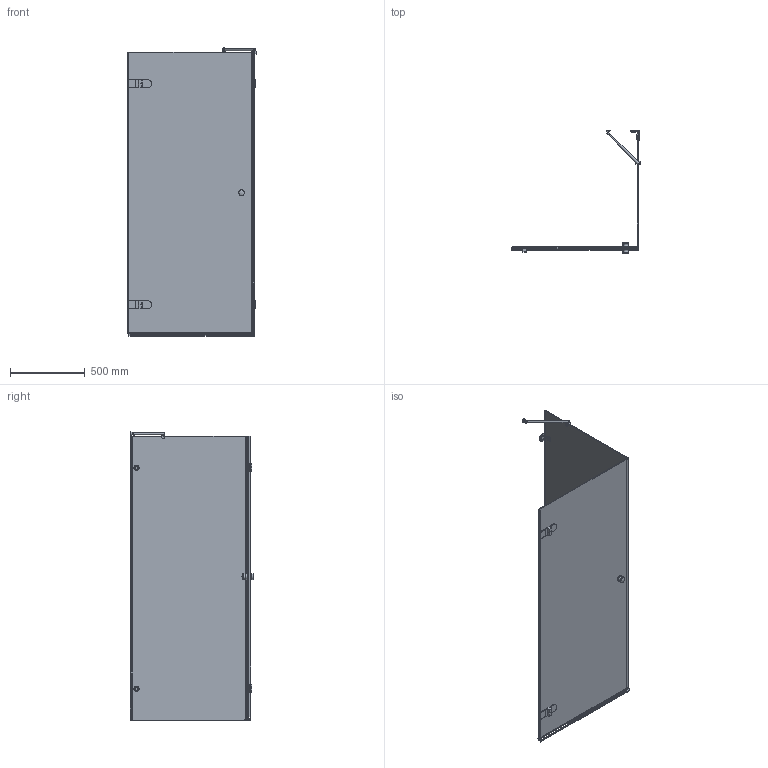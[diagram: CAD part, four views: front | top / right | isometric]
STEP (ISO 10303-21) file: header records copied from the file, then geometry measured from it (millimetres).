
FILE_DESCRIPTION(/* description */ (''),/* implementation_level */ '2;1');
FILE_NAME(/* name */ 'C:\2\LUX SQUARE GK-002A-2511\LUX SQUARE GK-002A-2511 левая модель\LUX SQUARE GK-002A-2511 ЛЕВАЯ-3D.stp',/* time_stamp */ '2020-08-13T15:52:26+03:00',/* author */ ('ChechurovS'),/* organization */ (''),/* preprocessor_version */ 'ST-DEVELOPER v15.2',/* originating_system */ 'Autodesk Inventor 2014',/* authorisation */ '');
FILE_SCHEMA (('AUTOMOTIVE_DESIGN { 1 0 10303 214 3 1 1 }'));
Length unit declared in the file: millimetre
Products named in the file (1): LUX SQUARE GK-002A-2511 ЛЕВАЯ-3
D
Bounding box: 860.1 x 828.1 x 1931.49 mm (x, y, z)
Volume: 19337425.7 mm3; surface area: 6570255.4 mm2
Topology: 2 solids, 4 shells, 587 faces, 1440 edges, 890 vertices
Faces by surface type: plane 411, cylinder 141, torus 17, bspline 8, sphere 6, cone 4
Full cylindrical faces by diameter (mm): 12 x1, 15 x1, 20 x2, 26 x1, 30 x4, 35 x2, 38 x4, 40 x2
Entity records: 18268 total; most frequent: CARTESIAN_POINT 3922, DIRECTION 2831, ORIENTED_EDGE 2792, EDGE_CURVE 1396, LINE 1019, VECTOR 1019, AXIS2_PLACEMENT_3D 906, VERTEX_POINT 878
